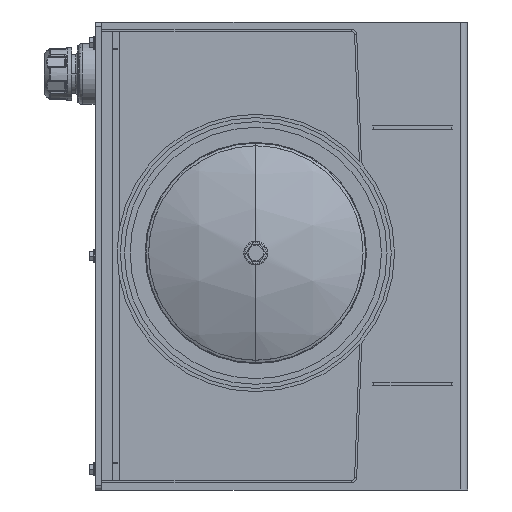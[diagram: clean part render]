
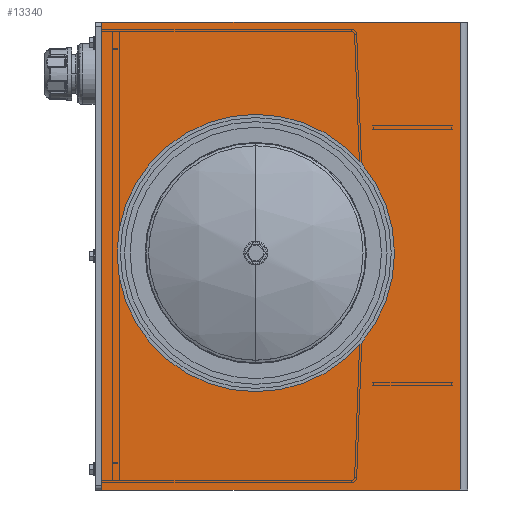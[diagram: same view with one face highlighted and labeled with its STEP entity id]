
A CAD part, left-side view. The second image highlights one B-rep face of the part: STEP entity #13340.
In plain terms, the highlighted planar face has unit normal (-1, 0, 0).
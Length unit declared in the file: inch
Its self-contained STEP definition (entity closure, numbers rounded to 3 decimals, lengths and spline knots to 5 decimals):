
#239 = EDGE_LOOP ( 'NONE', ( #11733, #32940 ) ) ;
#345 = CARTESIAN_POINT ( 'NONE',  ( -33.46859, -12.16594, -12.22974 ) ) ;
#871 = DIRECTION ( 'NONE',  ( 0., 0., 1. ) ) ;
#992 = EDGE_LOOP ( 'NONE', ( #24855, #13200, #4314, #19838 ) ) ;
#2942 = CIRCLE ( 'NONE', #27736, 6.125 ) ;
#3555 = DIRECTION ( 'NONE',  ( 0., 1., 0. ) ) ;
#3962 = CARTESIAN_POINT ( 'NONE',  ( -33.46859, 0.07906, 7.39526 ) ) ;
#3979 = VERTEX_POINT ( 'NONE', #24606 ) ;
#4117 = VERTEX_POINT ( 'NONE', #12295 ) ;
#4314 = ORIENTED_EDGE ( 'NONE', *, *, #33056, .T. ) ;
#4612 = CARTESIAN_POINT ( 'NONE',  ( -33.46859, 0.07906, 1.27026 ) ) ;
#5391 = FACE_BOUND ( 'NONE', #239, .T. ) ;
#5393 = VERTEX_POINT ( 'NONE', #29585 ) ;
#6010 = CARTESIAN_POINT ( 'NONE',  ( -33.46859, 8.95906, -12.22974 ) ) ;
#6839 = EDGE_CURVE ( 'NONE', #3979, #4117, #30738, .T. ) ;
#7147 = VECTOR ( 'NONE', #21226, 39.37008 ) ;
#7237 = DIRECTION ( 'NONE',  ( 0., 0., 1. ) ) ;
#8087 = EDGE_CURVE ( 'NONE', #16133, #13754, #31909, .T. ) ;
#9667 = CARTESIAN_POINT ( 'NONE',  ( -33.46859, 8.95906, -12.22974 ) ) ;
#9721 = LINE ( 'NONE', #6010, #29486 ) ;
#10525 = EDGE_CURVE ( 'NONE', #5393, #27858, #14923, .T. ) ;
#11154 = VECTOR ( 'NONE', #15374, 39.37008 ) ;
#11733 = ORIENTED_EDGE ( 'NONE', *, *, #12504, .F. ) ;
#12295 = CARTESIAN_POINT ( 'NONE',  ( -33.46859, 8.95906, 14.77026 ) ) ;
#12504 = EDGE_CURVE ( 'NONE', #13754, #16133, #2942, .T. ) ;
#13200 = ORIENTED_EDGE ( 'NONE', *, *, #6839, .T. ) ;
#13340 = ADVANCED_FACE ( 'NONE', ( #5391, #31994 ), #14714, .F. ) ;
#13754 = VERTEX_POINT ( 'NONE', #3962 ) ;
#14418 = LINE ( 'NONE', #18008, #11154 ) ;
#14714 = PLANE ( 'NONE',  #28611 ) ;
#14923 = LINE ( 'NONE', #345, #7147 ) ;
#15374 = DIRECTION ( 'NONE',  ( 0., 0., 1. ) ) ;
#16133 = VERTEX_POINT ( 'NONE', #25468 ) ;
#16499 = DIRECTION ( 'NONE',  ( -1., 0., 0. ) ) ;
#16501 = DIRECTION ( 'NONE',  ( 0., 0., -1. ) ) ;
#16558 = CARTESIAN_POINT ( 'NONE',  ( -33.46859, -12.16594, 14.77026 ) ) ;
#17574 = DIRECTION ( 'NONE',  ( 0., 0., -1. ) ) ;
#18008 = CARTESIAN_POINT ( 'NONE',  ( -33.46859, -11.73664, -12.22974 ) ) ;
#19838 = ORIENTED_EDGE ( 'NONE', *, *, #10525, .T. ) ;
#21226 = DIRECTION ( 'NONE',  ( 0., -1., 0. ) ) ;
#22795 = DIRECTION ( 'NONE',  ( -1., 0., 0. ) ) ;
#23189 = VECTOR ( 'NONE', #3555, 39.37008 ) ;
#24606 = CARTESIAN_POINT ( 'NONE',  ( -33.46859, -11.73664, 14.77026 ) ) ;
#24855 = ORIENTED_EDGE ( 'NONE', *, *, #29702, .T. ) ;
#25466 = AXIS2_PLACEMENT_3D ( 'NONE', #31799, #16499, #871 ) ;
#25468 = CARTESIAN_POINT ( 'NONE',  ( -33.46859, 0.07906, -4.85474 ) ) ;
#25814 = CARTESIAN_POINT ( 'NONE',  ( -33.46859, -11.73664, -12.22974 ) ) ;
#27736 = AXIS2_PLACEMENT_3D ( 'NONE', #4612, #22795, #7237 ) ;
#27858 = VERTEX_POINT ( 'NONE', #25814 ) ;
#28611 = AXIS2_PLACEMENT_3D ( 'NONE', #9667, #32820, #17574 ) ;
#29486 = VECTOR ( 'NONE', #16501, 39.37008 ) ;
#29585 = CARTESIAN_POINT ( 'NONE',  ( -33.46859, 8.95906, -12.22974 ) ) ;
#29702 = EDGE_CURVE ( 'NONE', #27858, #3979, #14418, .T. ) ;
#30738 = LINE ( 'NONE', #16558, #23189 ) ;
#31799 = CARTESIAN_POINT ( 'NONE',  ( -33.46859, 0.07906, 1.27026 ) ) ;
#31909 = CIRCLE ( 'NONE', #25466, 6.125 ) ;
#31994 = FACE_OUTER_BOUND ( 'NONE', #992, .T. ) ;
#32820 = DIRECTION ( 'NONE',  ( 1., 0., 0. ) ) ;
#32940 = ORIENTED_EDGE ( 'NONE', *, *, #8087, .F. ) ;
#33056 = EDGE_CURVE ( 'NONE', #4117, #5393, #9721, .T. ) ;
